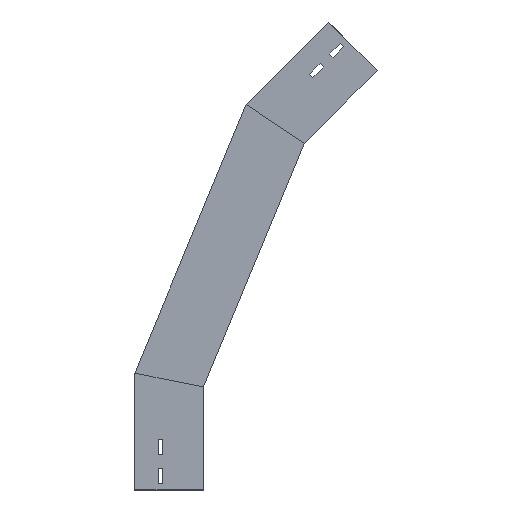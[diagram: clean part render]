
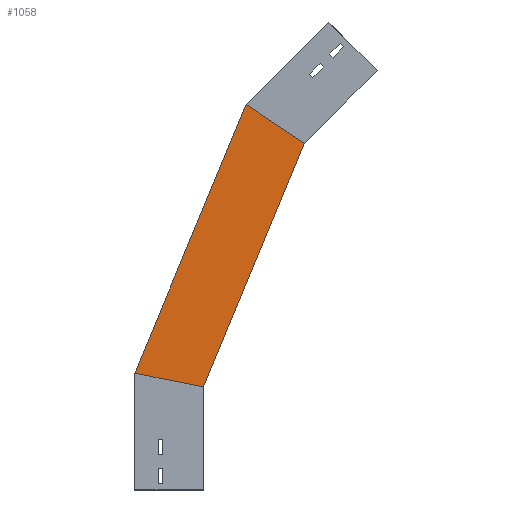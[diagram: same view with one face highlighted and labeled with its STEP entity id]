
A CAD part, left-side view. The second image highlights one B-rep face of the part: STEP entity #1058.
In plain terms, the highlighted planar face has unit normal (-1, 0, 0) as drawn and (1, 0, 0) by its records, which use the part's own axes.
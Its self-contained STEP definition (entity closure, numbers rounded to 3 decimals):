
#71 = VERTEX_POINT ( 'NONE', #204 ) ;
#106 = EDGE_LOOP ( 'NONE', ( #152, #837, #1116, #848 ) ) ;
#112 = DIRECTION ( 'NONE',  ( 0., -0.383, 0.924 ) ) ;
#119 = CARTESIAN_POINT ( 'NONE',  ( 0., 8.412, 129.693 ) ) ;
#144 = LINE ( 'NONE', #852, #816 ) ;
#151 = LINE ( 'NONE', #1232, #1105 ) ;
#152 = ORIENTED_EDGE ( 'NONE', *, *, #714, .T. ) ;
#204 = CARTESIAN_POINT ( 'NONE',  ( 0., -146.568, 503.846 ) ) ;
#231 = CARTESIAN_POINT ( 'NONE',  ( 0., 8.412, 129.693 ) ) ;
#309 = EDGE_CURVE ( 'NONE', #1226, #650, #144, .T. ) ;
#361 = CARTESIAN_POINT ( 'NONE',  ( 0., -61.792, 560.491 ) ) ;
#461 = CARTESIAN_POINT ( 'NONE',  ( 0., 0., 150. ) ) ;
#481 = DIRECTION ( 'NONE',  ( 0., -0.831, -0.556 ) ) ;
#576 = PLANE ( 'NONE',  #624 ) ;
#589 = VECTOR ( 'NONE', #112, 1000. ) ;
#590 = LINE ( 'NONE', #1397, #924 ) ;
#624 = AXIS2_PLACEMENT_3D ( 'NONE', #231, #692, #1310 ) ;
#644 = EDGE_CURVE ( 'NONE', #650, #71, #688, .T. ) ;
#650 = VERTEX_POINT ( 'NONE', #461 ) ;
#688 = LINE ( 'NONE', #119, #589 ) ;
#692 = DIRECTION ( 'NONE',  ( 1., 0., 0. ) ) ;
#714 = EDGE_CURVE ( 'NONE', #1226, #775, #151, .T. ) ;
#775 = VERTEX_POINT ( 'NONE', #361 ) ;
#816 = VECTOR ( 'NONE', #1417, 1000. ) ;
#837 = ORIENTED_EDGE ( 'NONE', *, *, #1304, .T. ) ;
#842 = FACE_OUTER_BOUND ( 'NONE', #106, .T. ) ;
#848 = ORIENTED_EDGE ( 'NONE', *, *, #309, .F. ) ;
#852 = CARTESIAN_POINT ( 'NONE',  ( 0., -28.701, 144.291 ) ) ;
#924 = VECTOR ( 'NONE', #481, 1000. ) ;
#1058 = ADVANCED_FACE ( 'NONE', ( #842 ), #576, .T. ) ;
#1105 = VECTOR ( 'NONE', #1443, 1000. ) ;
#1116 = ORIENTED_EDGE ( 'NONE', *, *, #644, .F. ) ;
#1226 = VERTEX_POINT ( 'NONE', #1373 ) ;
#1232 = CARTESIAN_POINT ( 'NONE',  ( 0., 100.799, 167.961 ) ) ;
#1304 = EDGE_CURVE ( 'NONE', #775, #71, #590, .T. ) ;
#1310 = DIRECTION ( 'NONE',  ( 0., 0., -1. ) ) ;
#1373 = CARTESIAN_POINT ( 'NONE',  ( 0., 100., 169.891 ) ) ;
#1397 = CARTESIAN_POINT ( 'NONE',  ( 0., -212.26, 459.952 ) ) ;
#1417 = DIRECTION ( 'NONE',  ( 0., -0.981, -0.195 ) ) ;
#1443 = DIRECTION ( 'NONE',  ( 0., -0.383, 0.924 ) ) ;
